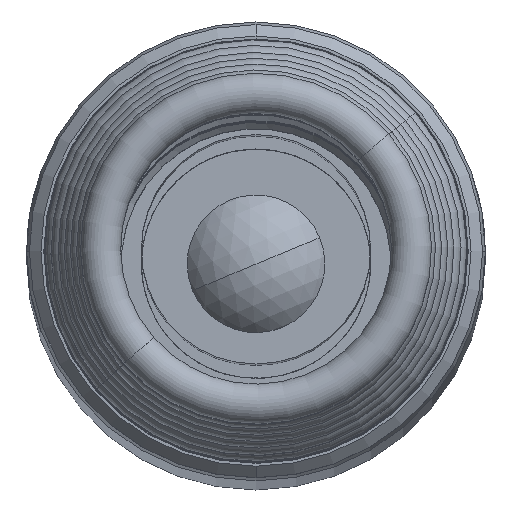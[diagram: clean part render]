
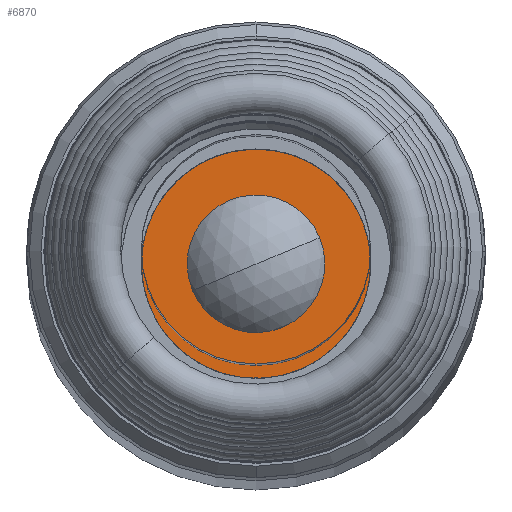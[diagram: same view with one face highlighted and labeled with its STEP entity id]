
A CAD part, top view. The second image highlights one B-rep face of the part: STEP entity #6870.
In plain terms, the highlighted planar face has unit normal (0, 0, 1).
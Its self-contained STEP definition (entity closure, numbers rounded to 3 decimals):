
#154 = DIRECTION ( 'NONE',  ( -0.924, -0.383, 0. ) ) ;
#435 = AXIS2_PLACEMENT_3D ( 'NONE', #6658, #6826, #6570 ) ;
#698 = AXIS2_PLACEMENT_3D ( 'NONE', #7374, #2922, #8123 ) ;
#776 = AXIS2_PLACEMENT_3D ( 'NONE', #8103, #8129, #8023 ) ;
#1179 = FACE_OUTER_BOUND ( 'NONE', #5265, .T. ) ;
#2444 = VERTEX_POINT ( 'NONE', #3170 ) ;
#2922 = DIRECTION ( 'NONE',  ( 0., 0., 1. ) ) ;
#2953 = VERTEX_POINT ( 'NONE', #8574 ) ;
#3019 = DIRECTION ( 'NONE',  ( -0.924, -0.383, 0. ) ) ;
#3072 = DIRECTION ( 'NONE',  ( 0., 0., -1. ) ) ;
#3099 = CARTESIAN_POINT ( 'NONE',  ( -1.684, 0.429, -27.9 ) ) ;
#3170 = CARTESIAN_POINT ( 'NONE',  ( -3.901, -0.49, -27.9 ) ) ;
#3304 = CIRCLE ( 'NONE', #698, 2.4 ) ;
#3847 = PLANE ( 'NONE',  #9199 ) ;
#4128 = CARTESIAN_POINT ( 'NONE',  ( -0.576, 0.889, -27.9 ) ) ;
#4407 = VERTEX_POINT ( 'NONE', #8430 ) ;
#5093 = CIRCLE ( 'NONE', #435, 1.2 ) ;
#5265 = EDGE_LOOP ( 'NONE', ( #7409, #9483 ) ) ;
#5302 = EDGE_LOOP ( 'NONE', ( #8255, #7730 ) ) ;
#5614 = VERTEX_POINT ( 'NONE', #4128 ) ;
#6570 = DIRECTION ( 'NONE',  ( -0.924, -0.383, 0. ) ) ;
#6658 = CARTESIAN_POINT ( 'NONE',  ( -1.684, 0.429, -27.9 ) ) ;
#6725 = EDGE_CURVE ( 'NONE', #4407, #5614, #7973, .T. ) ;
#6771 = EDGE_CURVE ( 'NONE', #5614, #4407, #5093, .T. ) ;
#6826 = DIRECTION ( 'NONE',  ( 0., 0., 1. ) ) ;
#6870 = ADVANCED_FACE ( 'NONE', ( #1179, #6923 ), #3847, .F. ) ;
#6923 = FACE_BOUND ( 'NONE', #5302, .T. ) ;
#6956 = EDGE_CURVE ( 'NONE', #2444, #2953, #7252, .T. ) ;
#7252 = CIRCLE ( 'NONE', #9022, 2.4 ) ;
#7374 = CARTESIAN_POINT ( 'NONE',  ( -1.684, 0.429, -27.9 ) ) ;
#7409 = ORIENTED_EDGE ( 'NONE', *, *, #6956, .T. ) ;
#7730 = ORIENTED_EDGE ( 'NONE', *, *, #6771, .F. ) ;
#7973 = CIRCLE ( 'NONE', #776, 1.2 ) ;
#8023 = DIRECTION ( 'NONE',  ( -0.924, -0.383, 0. ) ) ;
#8103 = CARTESIAN_POINT ( 'NONE',  ( -1.684, 0.429, -27.9 ) ) ;
#8123 = DIRECTION ( 'NONE',  ( -0.924, -0.383, 0. ) ) ;
#8129 = DIRECTION ( 'NONE',  ( 0., 0., 1. ) ) ;
#8255 = ORIENTED_EDGE ( 'NONE', *, *, #6725, .F. ) ;
#8430 = CARTESIAN_POINT ( 'NONE',  ( -2.793, -0.031, -27.9 ) ) ;
#8574 = CARTESIAN_POINT ( 'NONE',  ( 0.533, 1.348, -27.9 ) ) ;
#9022 = AXIS2_PLACEMENT_3D ( 'NONE', #9587, #9576, #154 ) ;
#9199 = AXIS2_PLACEMENT_3D ( 'NONE', #3099, #3072, #3019 ) ;
#9420 = EDGE_CURVE ( 'NONE', #2953, #2444, #3304, .T. ) ;
#9483 = ORIENTED_EDGE ( 'NONE', *, *, #9420, .T. ) ;
#9576 = DIRECTION ( 'NONE',  ( 0., 0., 1. ) ) ;
#9587 = CARTESIAN_POINT ( 'NONE',  ( -1.684, 0.429, -27.9 ) ) ;
